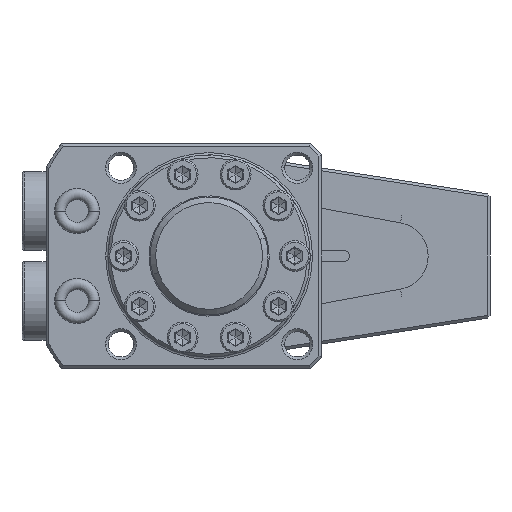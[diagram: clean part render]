
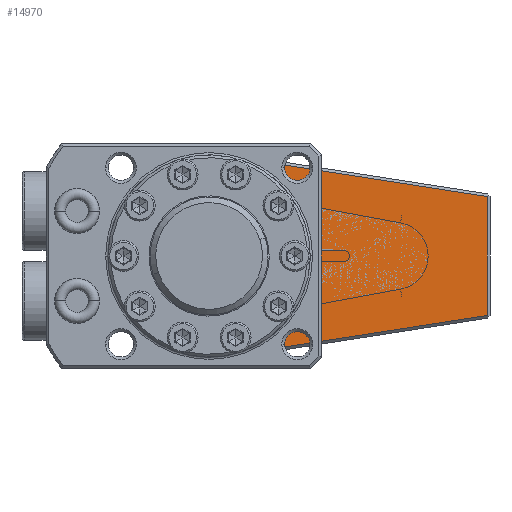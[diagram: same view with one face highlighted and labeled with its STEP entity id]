
A CAD part, front view. The second image highlights one B-rep face of the part: STEP entity #14970.
In plain terms, the highlighted planar face has unit normal (0, -1, 0).
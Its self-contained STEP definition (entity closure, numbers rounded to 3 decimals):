
#11272=DIRECTION('',(1.,0.,0.));
#11273=VECTOR('',#11272,11.333);
#11274=CARTESIAN_POINT('',(-19.5,-8.5,1.));
#11275=LINE('',#11274,#11273);
#11276=DIRECTION('',(0.,0.,-1.));
#11277=VECTOR('',#11276,8.5);
#11278=CARTESIAN_POINT('',(-19.5,-8.5,9.5));
#11279=LINE('',#11278,#11277);
#11280=DIRECTION('',(-0.707,0.,-0.707));
#11281=VECTOR('',#11280,1.414);
#11282=CARTESIAN_POINT('',(-18.5,-8.5,10.5));
#11283=LINE('',#11282,#11281);
#11284=DIRECTION('',(-1.,0.,0.));
#11285=VECTOR('',#11284,14.);
#11286=CARTESIAN_POINT('',(-4.5,-8.5,10.5));
#11287=LINE('',#11286,#11285);
#11288=DIRECTION('',(0.,0.,-1.));
#11289=VECTOR('',#11288,7.);
#11290=CARTESIAN_POINT('',(-4.5,-8.5,17.5));
#11291=LINE('',#11290,#11289);
#11292=DIRECTION('',(-1.,0.,0.));
#11293=VECTOR('',#11292,9.461);
#11294=CARTESIAN_POINT('',(4.961,-8.5,17.5));
#11295=LINE('',#11294,#11293);
#11296=DIRECTION('',(-0.988,0.,0.154));
#11297=VECTOR('',#11296,45.074);
#11298=CARTESIAN_POINT('',(49.5,-8.5,10.572));
#11299=LINE('',#11298,#11297);
#11300=DIRECTION('',(0.,0.,1.));
#11301=VECTOR('',#11300,21.144);
#11302=CARTESIAN_POINT('',(49.5,-8.5,-10.572));
#11303=LINE('',#11302,#11301);
#11304=DIRECTION('',(0.988,0.,0.154));
#11305=VECTOR('',#11304,45.074);
#11306=CARTESIAN_POINT('',(4.961,-8.5,-17.5));
#11307=LINE('',#11306,#11305);
#11308=DIRECTION('',(1.,0.,0.));
#11309=VECTOR('',#11308,9.461);
#11310=CARTESIAN_POINT('',(-4.5,-8.5,-17.5));
#11311=LINE('',#11310,#11309);
#11312=DIRECTION('',(0.,0.,-1.));
#11313=VECTOR('',#11312,7.);
#11314=CARTESIAN_POINT('',(-4.5,-8.5,-10.5));
#11315=LINE('',#11314,#11313);
#11316=DIRECTION('',(1.,0.,0.));
#11317=VECTOR('',#11316,14.);
#11318=CARTESIAN_POINT('',(-18.5,-8.5,-10.5));
#11319=LINE('',#11318,#11317);
#11320=DIRECTION('',(0.707,0.,-0.707));
#11321=VECTOR('',#11320,1.414);
#11322=CARTESIAN_POINT('',(-19.5,-8.5,-9.5));
#11323=LINE('',#11322,#11321);
#11324=DIRECTION('',(0.,0.,-1.));
#11325=VECTOR('',#11324,8.5);
#11326=CARTESIAN_POINT('',(-19.5,-8.5,-1.));
#11327=LINE('',#11326,#11325);
#11328=DIRECTION('',(1.,0.,0.));
#11329=VECTOR('',#11328,11.333);
#11330=CARTESIAN_POINT('',(-19.5,-8.5,-1.));
#11331=LINE('',#11330,#11329);
#11337=CARTESIAN_POINT('',(0.,-8.5,0.));
#11338=DIRECTION('',(0.,1.,0.));
#11339=DIRECTION('',(-0.993,0.,0.122));
#11340=AXIS2_PLACEMENT_3D('',#11337,#11338,#11339);
#11453=CARTESIAN_POINT('',(-8.167,-8.5,
-1.));
#11633=CARTESIAN_POINT('',(-8.167,-8.5,
1.));
#14629=CARTESIAN_POINT('',(-18.5,-8.5,10.5));
#14631=VERTEX_POINT('',#14629);
#14635=CARTESIAN_POINT('',(-4.5,-8.5,10.5));
#14636=VERTEX_POINT('',#14635);
#14641=CARTESIAN_POINT('',(49.5,-8.5,-10.572));
#14642=CARTESIAN_POINT('',(49.5,-8.5,10.572));
#14643=VERTEX_POINT('',#14641);
#14644=VERTEX_POINT('',#14642);
#14654=CARTESIAN_POINT('',(-18.5,-8.5,-10.5));
#14656=VERTEX_POINT('',#14654);
#14657=CARTESIAN_POINT('',(-4.5,-8.5,-10.5));
#14658=VERTEX_POINT('',#14657);
#14677=CARTESIAN_POINT('',(-19.5,-8.5,-9.5));
#14679=VERTEX_POINT('',#14677);
#14683=CARTESIAN_POINT('',(-19.5,-8.5,-1.));
#14684=VERTEX_POINT('',#14683);
#14685=CARTESIAN_POINT('',(-19.5,-8.5,1.));
#14687=VERTEX_POINT('',#14685);
#14691=CARTESIAN_POINT('',(-19.5,-8.5,9.5));
#14692=VERTEX_POINT('',#14691);
#14694=VERTEX_POINT('',#11633);
#14695=VERTEX_POINT('',#11453);
#14741=CARTESIAN_POINT('',(-4.5,-8.5,-17.5));
#14742=VERTEX_POINT('',#14741);
#14743=CARTESIAN_POINT('',(4.961,-8.5,-17.5));
#14744=VERTEX_POINT('',#14743);
#14769=CARTESIAN_POINT('',(4.961,-8.5,17.5));
#14770=VERTEX_POINT('',#14769);
#14771=CARTESIAN_POINT('',(-4.5,-8.5,17.5));
#14772=VERTEX_POINT('',#14771);
#14931=CARTESIAN_POINT('',(0.,-8.5,0.));
#14932=DIRECTION('',(0.,1.,0.));
#14933=DIRECTION('',(1.,0.,0.));
#14934=AXIS2_PLACEMENT_3D('',#14931,#14932,#14933);
#14935=PLANE('',#14934);
#14937=ORIENTED_EDGE('',*,*,#14936,.F.);
#14939=ORIENTED_EDGE('',*,*,#14938,.F.);
#14941=ORIENTED_EDGE('',*,*,#14940,.F.);
#14943=ORIENTED_EDGE('',*,*,#14942,.F.);
#14945=ORIENTED_EDGE('',*,*,#14944,.F.);
#14947=ORIENTED_EDGE('',*,*,#14946,.F.);
#14949=ORIENTED_EDGE('',*,*,#14948,.F.);
#14951=ORIENTED_EDGE('',*,*,#14950,.F.);
#14953=ORIENTED_EDGE('',*,*,#14952,.F.);
#14955=ORIENTED_EDGE('',*,*,#14954,.F.);
#14957=ORIENTED_EDGE('',*,*,#14956,.F.);
#14959=ORIENTED_EDGE('',*,*,#14958,.F.);
#14961=ORIENTED_EDGE('',*,*,#14960,.F.);
#14963=ORIENTED_EDGE('',*,*,#14962,.F.);
#14965=ORIENTED_EDGE('',*,*,#14964,.F.);
#14967=ORIENTED_EDGE('',*,*,#14966,.T.);
#14968=EDGE_LOOP('',(#14937,#14939,#14941,#14943,#14945,#14947,#14949,#14951,
#14953,#14955,#14957,#14959,#14961,#14963,#14965,#14967));
#14969=FACE_OUTER_BOUND('',#14968,.F.);
#14970=ADVANCED_FACE('',(#14969),#14935,.F.);
#11341=CIRCLE('',#11340,8.228);
#14936=EDGE_CURVE('',#14694,#14695,#11341,.T.);
#14938=EDGE_CURVE('',#14687,#14694,#11275,.T.);
#14940=EDGE_CURVE('',#14692,#14687,#11279,.T.);
#14942=EDGE_CURVE('',#14631,#14692,#11283,.T.);
#14944=EDGE_CURVE('',#14636,#14631,#11287,.T.);
#14946=EDGE_CURVE('',#14772,#14636,#11291,.T.);
#14948=EDGE_CURVE('',#14770,#14772,#11295,.T.);
#14950=EDGE_CURVE('',#14644,#14770,#11299,.T.);
#14952=EDGE_CURVE('',#14643,#14644,#11303,.T.);
#14954=EDGE_CURVE('',#14744,#14643,#11307,.T.);
#14956=EDGE_CURVE('',#14742,#14744,#11311,.T.);
#14958=EDGE_CURVE('',#14658,#14742,#11315,.T.);
#14960=EDGE_CURVE('',#14656,#14658,#11319,.T.);
#14962=EDGE_CURVE('',#14679,#14656,#11323,.T.);
#14964=EDGE_CURVE('',#14684,#14679,#11327,.T.);
#14966=EDGE_CURVE('',#14684,#14695,#11331,.T.);
